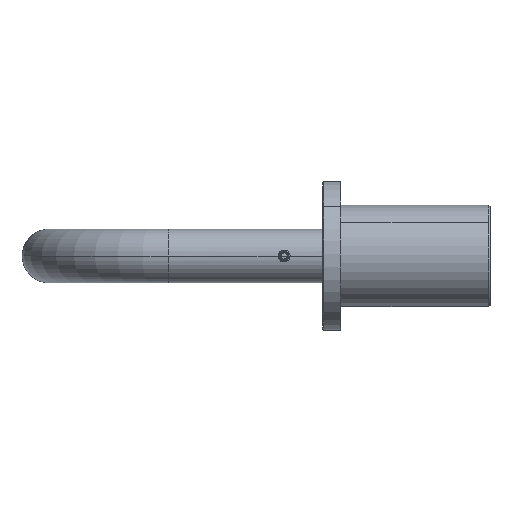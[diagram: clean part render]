
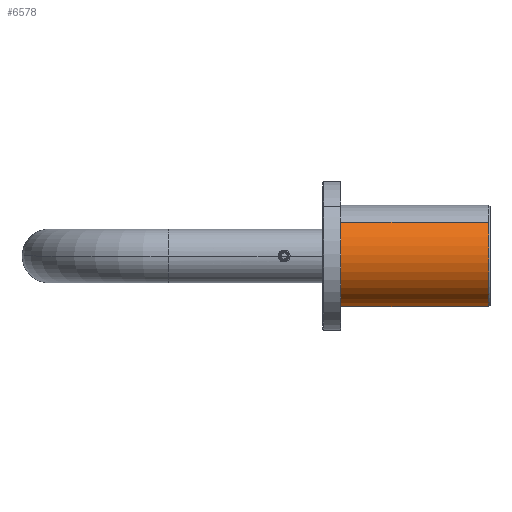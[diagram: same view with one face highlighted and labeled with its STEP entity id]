
A CAD part, left-side view. The second image highlights one B-rep face of the part: STEP entity #6578.
In plain terms, the highlighted cylindrical face has radius 17 mm (diameter 34 mm), a partial arc.
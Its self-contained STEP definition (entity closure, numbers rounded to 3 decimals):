
#567 = ORIENTED_EDGE ( 'NONE', *, *, #3159, .T. ) ;
#1004 = CARTESIAN_POINT ( 'NONE',  ( -17., 0., 55.5 ) ) ;
#1396 = CARTESIAN_POINT ( 'NONE',  ( 17., 0., 55.5 ) ) ;
#1649 = DIRECTION ( 'NONE',  ( 0., 0., -1. ) ) ;
#1906 = CARTESIAN_POINT ( 'NONE',  ( -17., 0., 6. ) ) ;
#2235 = LINE ( 'NONE', #5534, #2852 ) ;
#2331 = DIRECTION ( 'NONE',  ( 0., 0., -1. ) ) ;
#2432 = VERTEX_POINT ( 'NONE', #1396 ) ;
#2524 = DIRECTION ( 'NONE',  ( 1., 0., 0. ) ) ;
#2852 = VECTOR ( 'NONE', #2331, 1000. ) ;
#2922 = AXIS2_PLACEMENT_3D ( 'NONE', #7922, #8784, #2524 ) ;
#3093 = AXIS2_PLACEMENT_3D ( 'NONE', #3988, #1649, #8635 ) ;
#3159 = EDGE_CURVE ( 'NONE', #6524, #9794, #4530, .T. ) ;
#3941 = DIRECTION ( 'NONE',  ( 0., 0., -1. ) ) ;
#3988 = CARTESIAN_POINT ( 'NONE',  ( 0., 0., 56. ) ) ;
#4007 = ORIENTED_EDGE ( 'NONE', *, *, #4369, .F. ) ;
#4102 = EDGE_CURVE ( 'NONE', #7620, #6524, #7642, .T. ) ;
#4178 = EDGE_CURVE ( 'NONE', #2432, #7620, #8261, .T. ) ;
#4210 = FACE_OUTER_BOUND ( 'NONE', #8823, .T. ) ;
#4369 = EDGE_CURVE ( 'NONE', #2432, #9794, #2235, .T. ) ;
#4530 = CIRCLE ( 'NONE', #2922, 17. ) ;
#5315 = AXIS2_PLACEMENT_3D ( 'NONE', #8658, #3941, #8758 ) ;
#5534 = CARTESIAN_POINT ( 'NONE',  ( 17., 0., 56. ) ) ;
#5674 = VECTOR ( 'NONE', #6833, 1000. ) ;
#6235 = ORIENTED_EDGE ( 'NONE', *, *, #4178, .T. ) ;
#6524 = VERTEX_POINT ( 'NONE', #1906 ) ;
#6578 = ADVANCED_FACE ( 'NONE', ( #4210 ), #10087, .T. ) ;
#6833 = DIRECTION ( 'NONE',  ( 0., 0., -1. ) ) ;
#6907 = CARTESIAN_POINT ( 'NONE',  ( -17., 0., 56. ) ) ;
#7620 = VERTEX_POINT ( 'NONE', #1004 ) ;
#7642 = LINE ( 'NONE', #6907, #5674 ) ;
#7922 = CARTESIAN_POINT ( 'NONE',  ( 0., 0., 6. ) ) ;
#8261 = CIRCLE ( 'NONE', #5315, 17. ) ;
#8397 = ORIENTED_EDGE ( 'NONE', *, *, #4102, .T. ) ;
#8635 = DIRECTION ( 'NONE',  ( -1., 0., 0. ) ) ;
#8658 = CARTESIAN_POINT ( 'NONE',  ( 0., 0., 55.5 ) ) ;
#8758 = DIRECTION ( 'NONE',  ( 1., 0., 0. ) ) ;
#8784 = DIRECTION ( 'NONE',  ( 0., 0., 1. ) ) ;
#8823 = EDGE_LOOP ( 'NONE', ( #4007, #6235, #8397, #567 ) ) ;
#9794 = VERTEX_POINT ( 'NONE', #10094 ) ;
#10087 = CYLINDRICAL_SURFACE ( 'NONE', #3093, 17. ) ;
#10094 = CARTESIAN_POINT ( 'NONE',  ( 17., 0., 6. ) ) ;
